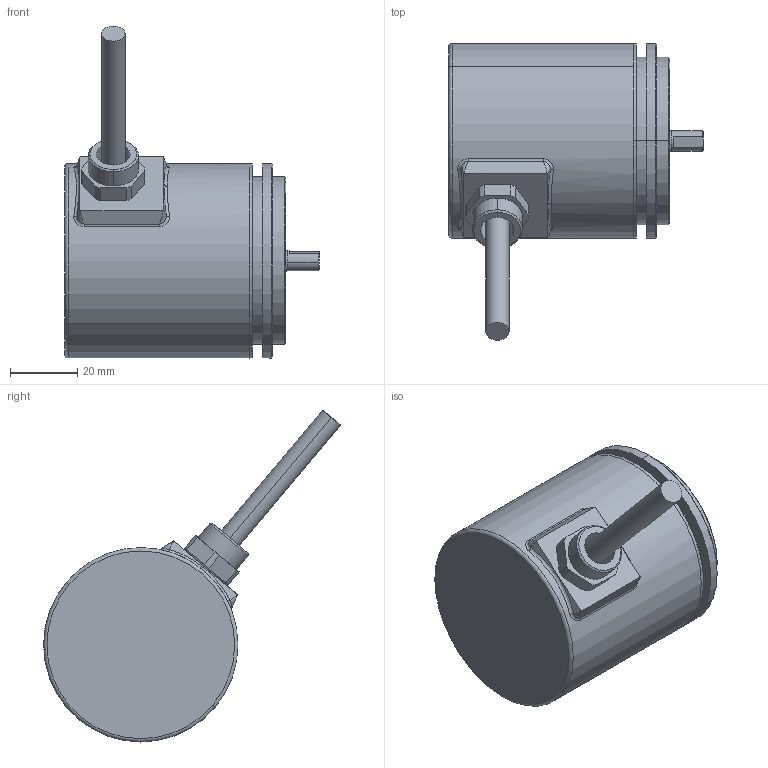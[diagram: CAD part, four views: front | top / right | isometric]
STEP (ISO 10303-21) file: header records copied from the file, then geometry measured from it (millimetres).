
FILE_DESCRIPTION (( 'STEP AP203' ), '1' );
FILE_NAME ('8.5804.21X2.XXXX.STEP', '2013-11-19T08:20:54', ( 'HeirlerN' ), ( 'Microsoft' ), 'SwSTEP 2.0', 'SolidWorks 2013', '' );
FILE_SCHEMA (( 'CONFIG_CONTROL_DESIGN' ));
Length unit declared in the file: millimetre
Products named in the file (1): 8.5804.21X2.XXXX
Bounding box: 75.95 x 88.57 x 99.04 mm (x, y, z)
Volume: 66308.1 mm3; surface area: 47755.6 mm2
Topology: 7 solids, 7 shells, 269 faces, 661 edges, 401 vertices
Faces by surface type: cylinder 93, plane 62, cone 49, torus 24, bspline 21, sphere 20
Entity records: 9877 total; most frequent: CARTESIAN_POINT 3809, DIRECTION 1308, ORIENTED_EDGE 1188, EDGE_CURVE 594, AXIS2_PLACEMENT_3D 558, VERTEX_POINT 371, EDGE_LOOP 331, CIRCLE 309
